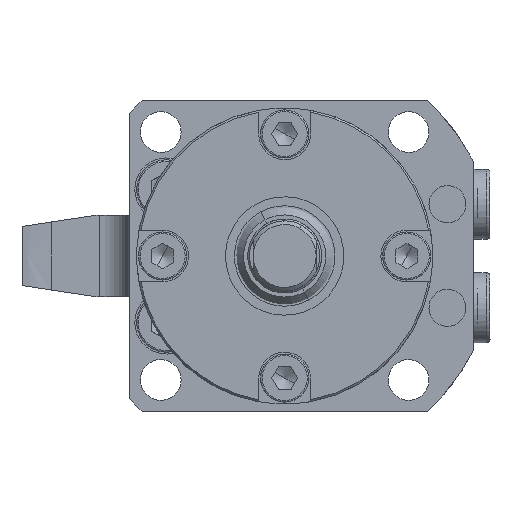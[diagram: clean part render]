
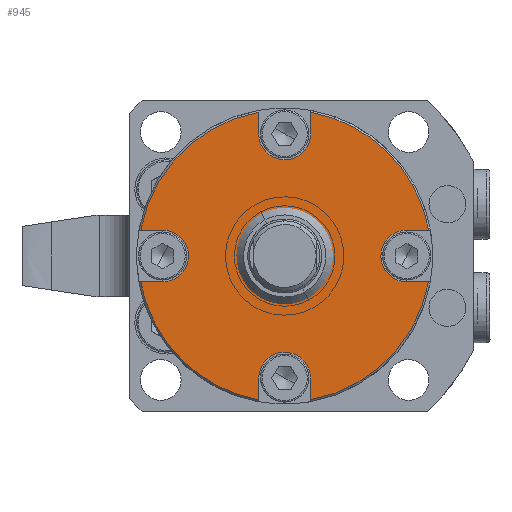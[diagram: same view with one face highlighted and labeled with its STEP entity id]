
A CAD part, front view. The second image highlights one B-rep face of the part: STEP entity #945.
In plain terms, the highlighted planar face has unit normal (0, -1, 0).
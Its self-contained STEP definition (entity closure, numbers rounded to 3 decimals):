
#402=CARTESIAN_POINT('Vertex',(-38.875,-86.,-7.)) ;
#418=CARTESIAN_POINT('Vertex',(-34.665,-86.,-18.937)) ;
#421=CARTESIAN_POINT('Axis2P3D Location',(0.,-86.,0.)) ;
#470=CARTESIAN_POINT('Vertex',(8.776,-86.,4.794)) ;
#477=CARTESIAN_POINT('Vertex',(-8.776,-86.,-4.794)) ;
#480=CARTESIAN_POINT('Axis2P3D Location',(0.,-86.,0.)) ;
#492=CARTESIAN_POINT('Axis2P3D Location',(0.,-86.,0.)) ;
#522=CARTESIAN_POINT('Vertex',(-33.,-86.,7.)) ;
#525=CARTESIAN_POINT('Line Origine',(-35.937,-86.,7.)) ;
#529=CARTESIAN_POINT('Vertex',(-38.875,-86.,7.)) ;
#564=CARTESIAN_POINT('Vertex',(-33.,-86.,-7.)) ;
#581=CARTESIAN_POINT('Line Origine',(-35.937,-86.,-7.)) ;
#603=CARTESIAN_POINT('Vertex',(-26.857,-86.,-3.356)) ;
#613=CARTESIAN_POINT('Axis2P3D Location',(-33.,-86.,0.)) ;
#625=CARTESIAN_POINT('Axis2P3D Location',(-33.,-86.,0.)) ;
#673=CARTESIAN_POINT('Vertex',(33.,-86.,7.)) ;
#678=CARTESIAN_POINT('Axis2P3D Location',(33.,-86.,0.)) ;
#682=CARTESIAN_POINT('Vertex',(26.857,-86.,3.356)) ;
#713=CARTESIAN_POINT('Vertex',(-7.,-86.,-33.)) ;
#729=CARTESIAN_POINT('Vertex',(3.356,-86.,-26.857)) ;
#732=CARTESIAN_POINT('Axis2P3D Location',(0.,-86.,-33.)) ;
#748=CARTESIAN_POINT('Vertex',(7.,-86.,-33.)) ;
#753=CARTESIAN_POINT('Axis2P3D Location',(0.,-86.,-33.)) ;
#774=CARTESIAN_POINT('Vertex',(33.,-86.,-7.)) ;
#784=CARTESIAN_POINT('Axis2P3D Location',(33.,-86.,0.)) ;
#805=CARTESIAN_POINT('Vertex',(7.,-86.,33.)) ;
#821=CARTESIAN_POINT('Vertex',(-3.356,-86.,26.857)) ;
#824=CARTESIAN_POINT('Axis2P3D Location',(0.,-86.,33.)) ;
#836=CARTESIAN_POINT('Axis2P3D Location',(-40.,-86.,0.)) ;
#841=CARTESIAN_POINT('Line Origine',(7.,-86.,-35.937)) ;
#845=CARTESIAN_POINT('Vertex',(7.,-86.,-38.875)) ;
#848=CARTESIAN_POINT('Axis2P3D Location',(0.,-86.,0.)) ;
#852=CARTESIAN_POINT('Vertex',(38.875,-86.,-7.)) ;
#855=CARTESIAN_POINT('Line Origine',(35.937,-86.,-7.)) ;
#860=CARTESIAN_POINT('Line Origine',(35.937,-86.,7.)) ;
#864=CARTESIAN_POINT('Vertex',(38.875,-86.,7.)) ;
#867=CARTESIAN_POINT('Axis2P3D Location',(0.,-86.,0.)) ;
#871=CARTESIAN_POINT('Vertex',(34.665,-86.,18.937)) ;
#874=CARTESIAN_POINT('Axis2P3D Location',(0.,-86.,0.)) ;
#878=CARTESIAN_POINT('Vertex',(7.,-86.,38.875)) ;
#881=CARTESIAN_POINT('Line Origine',(7.,-86.,35.937)) ;
#886=CARTESIAN_POINT('Axis2P3D Location',(0.,-86.,33.)) ;
#890=CARTESIAN_POINT('Vertex',(-7.,-86.,33.)) ;
#893=CARTESIAN_POINT('Line Origine',(-7.,-86.,35.937)) ;
#897=CARTESIAN_POINT('Vertex',(-7.,-86.,38.875)) ;
#900=CARTESIAN_POINT('Axis2P3D Location',(0.,-86.,0.)) ;
#905=CARTESIAN_POINT('Axis2P3D Location',(0.,-86.,0.)) ;
#909=CARTESIAN_POINT('Vertex',(-7.,-86.,-38.875)) ;
#912=CARTESIAN_POINT('Line Origine',(-7.,-86.,-35.937)) ;
#422=DIRECTION('Axis2P3D Direction',(0.,-1.,0.)) ;
#481=DIRECTION('Axis2P3D Direction',(0.,-1.,0.)) ;
#493=DIRECTION('Axis2P3D Direction',(0.,-1.,0.)) ;
#526=DIRECTION('Vector Direction',(1.,0.,0.)) ;
#582=DIRECTION('Vector Direction',(1.,0.,0.)) ;
#614=DIRECTION('Axis2P3D Direction',(0.,-1.,0.)) ;
#626=DIRECTION('Axis2P3D Direction',(0.,-1.,0.)) ;
#679=DIRECTION('Axis2P3D Direction',(0.,1.,0.)) ;
#733=DIRECTION('Axis2P3D Direction',(0.,1.,0.)) ;
#754=DIRECTION('Axis2P3D Direction',(0.,1.,0.)) ;
#785=DIRECTION('Axis2P3D Direction',(0.,1.,0.)) ;
#825=DIRECTION('Axis2P3D Direction',(0.,1.,0.)) ;
#837=DIRECTION('Axis2P3D Direction',(0.,-1.,0.)) ;
#838=DIRECTION('Axis2P3D XDirection',(1.,0.,0.)) ;
#842=DIRECTION('Vector Direction',(0.,0.,-1.)) ;
#849=DIRECTION('Axis2P3D Direction',(0.,-1.,0.)) ;
#856=DIRECTION('Vector Direction',(1.,0.,0.)) ;
#861=DIRECTION('Vector Direction',(1.,0.,0.)) ;
#868=DIRECTION('Axis2P3D Direction',(0.,-1.,0.)) ;
#875=DIRECTION('Axis2P3D Direction',(0.,-1.,0.)) ;
#882=DIRECTION('Vector Direction',(0.,0.,1.)) ;
#887=DIRECTION('Axis2P3D Direction',(0.,-1.,0.)) ;
#894=DIRECTION('Vector Direction',(0.,0.,1.)) ;
#901=DIRECTION('Axis2P3D Direction',(0.,-1.,0.)) ;
#906=DIRECTION('Axis2P3D Direction',(0.,-1.,0.)) ;
#913=DIRECTION('Vector Direction',(0.,0.,-1.)) ;
#423=AXIS2_PLACEMENT_3D('Circle Axis2P3D',#421,#422,$) ;
#482=AXIS2_PLACEMENT_3D('Circle Axis2P3D',#480,#481,$) ;
#494=AXIS2_PLACEMENT_3D('Circle Axis2P3D',#492,#493,$) ;
#615=AXIS2_PLACEMENT_3D('Circle Axis2P3D',#613,#614,$) ;
#627=AXIS2_PLACEMENT_3D('Circle Axis2P3D',#625,#626,$) ;
#680=AXIS2_PLACEMENT_3D('Circle Axis2P3D',#678,#679,$) ;
#734=AXIS2_PLACEMENT_3D('Circle Axis2P3D',#732,#733,$) ;
#755=AXIS2_PLACEMENT_3D('Circle Axis2P3D',#753,#754,$) ;
#786=AXIS2_PLACEMENT_3D('Circle Axis2P3D',#784,#785,$) ;
#826=AXIS2_PLACEMENT_3D('Circle Axis2P3D',#824,#825,$) ;
#839=AXIS2_PLACEMENT_3D('Plane Axis2P3D',#836,#837,#838) ;
#850=AXIS2_PLACEMENT_3D('Circle Axis2P3D',#848,#849,$) ;
#869=AXIS2_PLACEMENT_3D('Circle Axis2P3D',#867,#868,$) ;
#876=AXIS2_PLACEMENT_3D('Circle Axis2P3D',#874,#875,$) ;
#888=AXIS2_PLACEMENT_3D('Circle Axis2P3D',#886,#887,$) ;
#902=AXIS2_PLACEMENT_3D('Circle Axis2P3D',#900,#901,$) ;
#907=AXIS2_PLACEMENT_3D('Circle Axis2P3D',#905,#906,$) ;
#918=ORIENTED_EDGE('',*,*,#736,.T.) ;
#919=ORIENTED_EDGE('',*,*,#757,.T.) ;
#920=ORIENTED_EDGE('',*,*,#847,.T.) ;
#921=ORIENTED_EDGE('',*,*,#854,.T.) ;
#922=ORIENTED_EDGE('',*,*,#859,.F.) ;
#923=ORIENTED_EDGE('',*,*,#788,.T.) ;
#924=ORIENTED_EDGE('',*,*,#684,.T.) ;
#925=ORIENTED_EDGE('',*,*,#866,.T.) ;
#926=ORIENTED_EDGE('',*,*,#873,.T.) ;
#927=ORIENTED_EDGE('',*,*,#880,.T.) ;
#928=ORIENTED_EDGE('',*,*,#885,.F.) ;
#929=ORIENTED_EDGE('',*,*,#828,.T.) ;
#930=ORIENTED_EDGE('',*,*,#892,.T.) ;
#931=ORIENTED_EDGE('',*,*,#899,.T.) ;
#932=ORIENTED_EDGE('',*,*,#904,.T.) ;
#933=ORIENTED_EDGE('',*,*,#531,.T.) ;
#934=ORIENTED_EDGE('',*,*,#629,.T.) ;
#935=ORIENTED_EDGE('',*,*,#617,.T.) ;
#936=ORIENTED_EDGE('',*,*,#585,.F.) ;
#937=ORIENTED_EDGE('',*,*,#425,.T.) ;
#938=ORIENTED_EDGE('',*,*,#911,.T.) ;
#939=ORIENTED_EDGE('',*,*,#916,.F.) ;
#942=ORIENTED_EDGE('',*,*,#484,.F.) ;
#943=ORIENTED_EDGE('',*,*,#496,.F.) ;
#944=FACE_BOUND('',#941,.T.) ;
#527=VECTOR('Line Direction',#526,1.) ;
#583=VECTOR('Line Direction',#582,1.) ;
#843=VECTOR('Line Direction',#842,1.) ;
#857=VECTOR('Line Direction',#856,1.) ;
#862=VECTOR('Line Direction',#861,1.) ;
#883=VECTOR('Line Direction',#882,1.) ;
#895=VECTOR('Line Direction',#894,1.) ;
#914=VECTOR('Line Direction',#913,1.) ;
#945=ADVANCED_FACE('BODY',(#940,#944),#840,.T.) ;
#424=CIRCLE('generated circle',#423,39.5) ;
#483=CIRCLE('generated circle',#482,10.) ;
#495=CIRCLE('generated circle',#494,10.) ;
#616=CIRCLE('generated circle',#615,7.) ;
#628=CIRCLE('generated circle',#627,7.) ;
#681=CIRCLE('generated circle',#680,7.) ;
#735=CIRCLE('generated circle',#734,7.) ;
#756=CIRCLE('generated circle',#755,7.) ;
#787=CIRCLE('generated circle',#786,7.) ;
#827=CIRCLE('generated circle',#826,7.) ;
#851=CIRCLE('generated circle',#850,39.5) ;
#870=CIRCLE('generated circle',#869,39.5) ;
#877=CIRCLE('generated circle',#876,39.5) ;
#889=CIRCLE('generated circle',#888,7.) ;
#903=CIRCLE('generated circle',#902,39.5) ;
#908=CIRCLE('generated circle',#907,39.5) ;
#425=EDGE_CURVE('',#403,#419,#424,.T.) ;
#484=EDGE_CURVE('',#478,#471,#483,.T.) ;
#496=EDGE_CURVE('',#471,#478,#495,.T.) ;
#531=EDGE_CURVE('',#530,#523,#528,.T.) ;
#585=EDGE_CURVE('',#403,#565,#584,.T.) ;
#617=EDGE_CURVE('',#604,#565,#616,.F.) ;
#629=EDGE_CURVE('',#523,#604,#628,.F.) ;
#684=EDGE_CURVE('',#683,#674,#681,.T.) ;
#736=EDGE_CURVE('',#714,#730,#735,.T.) ;
#757=EDGE_CURVE('',#730,#749,#756,.T.) ;
#788=EDGE_CURVE('',#775,#683,#787,.T.) ;
#828=EDGE_CURVE('',#806,#822,#827,.T.) ;
#847=EDGE_CURVE('',#749,#846,#844,.T.) ;
#854=EDGE_CURVE('',#846,#853,#851,.T.) ;
#859=EDGE_CURVE('',#775,#853,#858,.T.) ;
#866=EDGE_CURVE('',#674,#865,#863,.T.) ;
#873=EDGE_CURVE('',#865,#872,#870,.T.) ;
#880=EDGE_CURVE('',#872,#879,#877,.T.) ;
#885=EDGE_CURVE('',#806,#879,#884,.T.) ;
#892=EDGE_CURVE('',#822,#891,#889,.F.) ;
#899=EDGE_CURVE('',#891,#898,#896,.T.) ;
#904=EDGE_CURVE('',#898,#530,#903,.T.) ;
#911=EDGE_CURVE('',#419,#910,#908,.T.) ;
#916=EDGE_CURVE('',#714,#910,#915,.T.) ;
#917=EDGE_LOOP('',(#918,#919,#920,#921,#922,#923,#924,#925,#926,#927,#928,#929,#930,#931,#932,#933,#934,#935,#936,#937,#938,#939)) ;
#941=EDGE_LOOP('',(#942,#943)) ;
#940=FACE_OUTER_BOUND('',#917,.T.) ;
#528=LINE('Line',#525,#527) ;
#584=LINE('Line',#581,#583) ;
#844=LINE('Line',#841,#843) ;
#858=LINE('Line',#855,#857) ;
#863=LINE('Line',#860,#862) ;
#884=LINE('Line',#881,#883) ;
#896=LINE('Line',#893,#895) ;
#915=LINE('Line',#912,#914) ;
#840=PLANE('Plane',#839) ;
#403=VERTEX_POINT('',#402) ;
#419=VERTEX_POINT('',#418) ;
#471=VERTEX_POINT('',#470) ;
#478=VERTEX_POINT('',#477) ;
#523=VERTEX_POINT('',#522) ;
#530=VERTEX_POINT('',#529) ;
#565=VERTEX_POINT('',#564) ;
#604=VERTEX_POINT('',#603) ;
#674=VERTEX_POINT('',#673) ;
#683=VERTEX_POINT('',#682) ;
#714=VERTEX_POINT('',#713) ;
#730=VERTEX_POINT('',#729) ;
#749=VERTEX_POINT('',#748) ;
#775=VERTEX_POINT('',#774) ;
#806=VERTEX_POINT('',#805) ;
#822=VERTEX_POINT('',#821) ;
#846=VERTEX_POINT('',#845) ;
#853=VERTEX_POINT('',#852) ;
#865=VERTEX_POINT('',#864) ;
#872=VERTEX_POINT('',#871) ;
#879=VERTEX_POINT('',#878) ;
#891=VERTEX_POINT('',#890) ;
#898=VERTEX_POINT('',#897) ;
#910=VERTEX_POINT('',#909) ;
